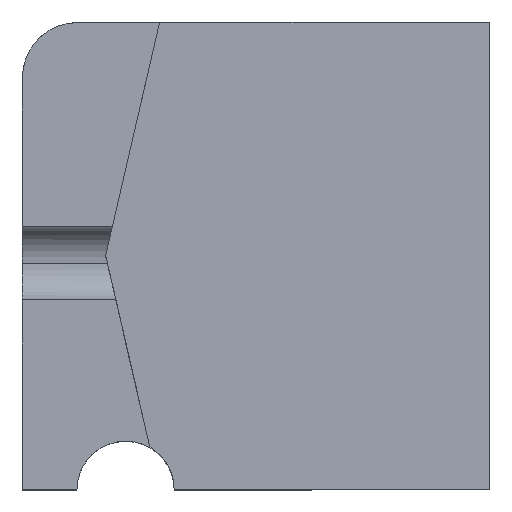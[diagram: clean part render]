
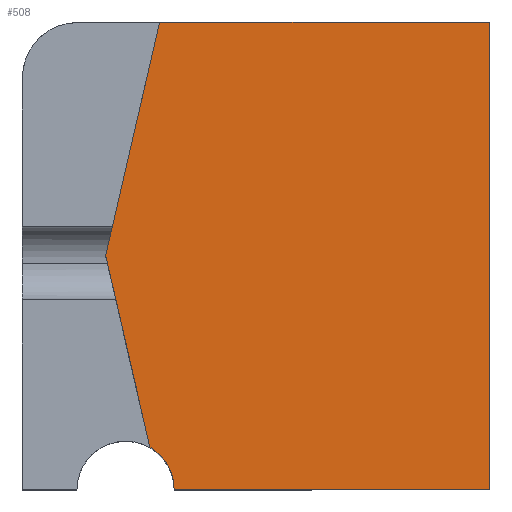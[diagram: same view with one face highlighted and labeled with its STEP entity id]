
A CAD part, top view. The second image highlights one B-rep face of the part: STEP entity #508.
In plain terms, the highlighted planar face has unit normal (0, 0, 1).
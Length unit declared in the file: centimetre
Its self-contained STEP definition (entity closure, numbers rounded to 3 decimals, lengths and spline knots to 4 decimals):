
#24 = VERTEX_POINT ( 'NONE', #565 ) ;
#84 = LINE ( 'NONE', #327, #222 ) ;
#137 = LINE ( 'NONE', #956, #1030 ) ;
#182 = DIRECTION ( 'NONE',  ( 1., 0., 0. ) ) ;
#192 = AXIS2_PLACEMENT_3D ( 'NONE', #708, #1394, #1153 ) ;
#197 = VERTEX_POINT ( 'NONE', #1346 ) ;
#222 = VECTOR ( 'NONE', #1456, 100. ) ;
#252 = CARTESIAN_POINT ( 'NONE',  ( 293.6612, 1000., 1000. ) ) ;
#269 = ORIENTED_EDGE ( 'NONE', *, *, #369, .T. ) ;
#273 = DIRECTION ( 'NONE',  ( -1., 0., 0. ) ) ;
#290 = VERTEX_POINT ( 'NONE', #878 ) ;
#327 = CARTESIAN_POINT ( 'NONE',  ( 1000., 1000., 1000. ) ) ;
#329 = CARTESIAN_POINT ( 'NONE',  ( 324.7494, 0., 1000. ) ) ;
#332 = CARTESIAN_POINT ( 'NONE',  ( 272.8866, 89.9764, 1000. ) ) ;
#369 = EDGE_CURVE ( 'NONE', #409, #197, #421, .T. ) ;
#402 = ORIENTED_EDGE ( 'NONE', *, *, #1380, .F. ) ;
#409 = VERTEX_POINT ( 'NONE', #329 ) ;
#421 = LINE ( 'NONE', #1200, #543 ) ;
#440 = VERTEX_POINT ( 'NONE', #1247 ) ;
#508 = ADVANCED_FACE ( 'NONE', ( #1372 ), #1070, .T. ) ;
#526 = EDGE_CURVE ( 'NONE', #440, #290, #137, .T. ) ;
#543 = VECTOR ( 'NONE', #182, 100. ) ;
#565 = CARTESIAN_POINT ( 'NONE',  ( 178.2166, 500., 1000. ) ) ;
#599 = DIRECTION ( 'NONE',  ( 0.225, 0.974, 0. ) ) ;
#622 = DIRECTION ( 'NONE',  ( 1., 0., 0. ) ) ;
#627 = EDGE_CURVE ( 'NONE', #24, #290, #812, .T. ) ;
#689 = AXIS2_PLACEMENT_3D ( 'NONE', #966, #1193, #622 ) ;
#698 = VECTOR ( 'NONE', #599, 100. ) ;
#708 = CARTESIAN_POINT ( 'NONE',  ( 0., 0., 1000. ) ) ;
#773 = LINE ( 'NONE', #1221, #1269 ) ;
#806 = ORIENTED_EDGE ( 'NONE', *, *, #526, .T. ) ;
#812 = LINE ( 'NONE', #252, #698 ) ;
#862 = EDGE_CURVE ( 'NONE', #197, #440, #84, .T. ) ;
#878 = CARTESIAN_POINT ( 'NONE',  ( 293.6612, 1000., 1000. ) ) ;
#956 = CARTESIAN_POINT ( 'NONE',  ( 0., 1000., 1000. ) ) ;
#966 = CARTESIAN_POINT ( 'NONE',  ( 220.7683, 0., 1000. ) ) ;
#1030 = VECTOR ( 'NONE', #273, 100. ) ;
#1070 = PLANE ( 'NONE',  #192 ) ;
#1137 = EDGE_LOOP ( 'NONE', ( #1331, #269, #1202, #806, #1260, #402 ) ) ;
#1153 = DIRECTION ( 'NONE',  ( 1., 0., 0. ) ) ;
#1193 = DIRECTION ( 'NONE',  ( 0., 0., 1. ) ) ;
#1200 = CARTESIAN_POINT ( 'NONE',  ( 0., 0., 1000. ) ) ;
#1202 = ORIENTED_EDGE ( 'NONE', *, *, #862, .T. ) ;
#1221 = CARTESIAN_POINT ( 'NONE',  ( 178.2166, 500., 1000. ) ) ;
#1230 = DIRECTION ( 'NONE',  ( -0.225, 0.974, 0. ) ) ;
#1247 = CARTESIAN_POINT ( 'NONE',  ( 1000., 1000., 1000. ) ) ;
#1249 = EDGE_CURVE ( 'NONE', #409, #1359, #1356, .T. ) ;
#1260 = ORIENTED_EDGE ( 'NONE', *, *, #627, .F. ) ;
#1269 = VECTOR ( 'NONE', #1230, 100. ) ;
#1331 = ORIENTED_EDGE ( 'NONE', *, *, #1249, .F. ) ;
#1346 = CARTESIAN_POINT ( 'NONE',  ( 1000., 0., 1000. ) ) ;
#1356 = CIRCLE ( 'NONE', #689, 103.9811 ) ;
#1359 = VERTEX_POINT ( 'NONE', #332 ) ;
#1372 = FACE_OUTER_BOUND ( 'NONE', #1137, .T. ) ;
#1380 = EDGE_CURVE ( 'NONE', #1359, #24, #773, .T. ) ;
#1394 = DIRECTION ( 'NONE',  ( 0., 0., 1. ) ) ;
#1456 = DIRECTION ( 'NONE',  ( 0., 1., 0. ) ) ;
